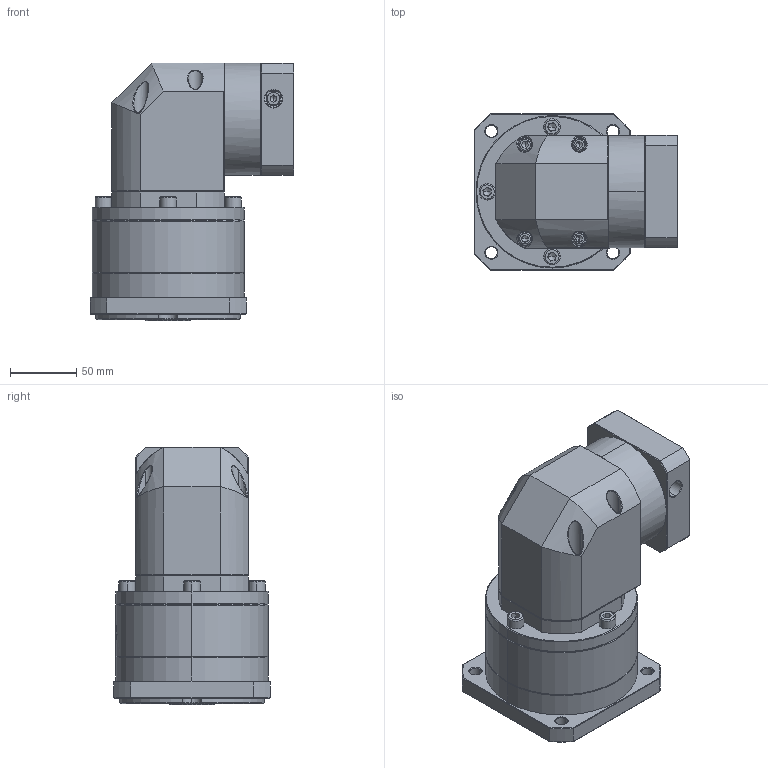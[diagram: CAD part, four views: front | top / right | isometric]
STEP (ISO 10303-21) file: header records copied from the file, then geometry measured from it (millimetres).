
FILE_DESCRIPTION (( 'STEP AP214' ), '1' );
FILE_NAME ('ZFR120A-K25-L2-P2-14-60-75-M6.step', '2023-08-27T09:20:46', ( '' ), ( '' ), 'SwSTEP 2.0', 'SolidWorks 2016', '' );
FILE_SCHEMA (( 'AUTOMOTIVE_DESIGN' ));
Length unit declared in the file: millimetre
Products named in the file (1): ZFR120A-K25-L2-P2-14-60-75-M6
Bounding box: 154.1 x 118 x 195 mm (x, y, z)
Volume: 1816067.6 mm3; surface area: 168515.6 mm2
Topology: 6 solids, 6 shells, 2353 faces, 6143 edges, 3895 vertices
Faces by surface type: plane 1167, bspline 434, cylinder 423, cone 315, torus 14
Entity records: 124794 total; most frequent: CARTESIAN_POINT 46649, ORIENTED_EDGE 12198, DIRECTION 9012, EDGE_CURVE 6099, VERTEX_POINT 3895, VECTOR 3330, LINE 3330, AXIS2_PLACEMENT_3D 2841
